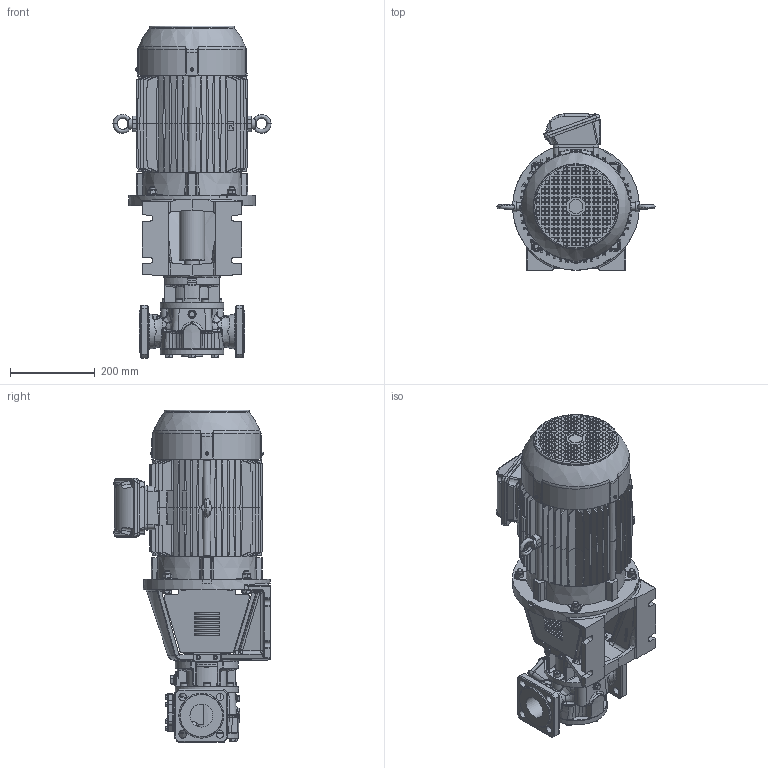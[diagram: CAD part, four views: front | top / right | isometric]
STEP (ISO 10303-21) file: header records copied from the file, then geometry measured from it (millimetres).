
FILE_DESCRIPTION(/* description */ (''),/* implementation_level */ '2;1');
FILE_NAME(/* name */ 'C:\V\JPP\Designs\GEAR PUMPS\PRODUCT ENGINEERING\EUROPE\TG BLOC\TG BLOC_15-50_G2_O_NRV-_132M-STEP.stp',/* time_stamp */ '2021-03-17T08:44:12+01:00',/* author */ ('A77THR'),/* organization */ (''),/* preprocessor_version */ 'ST-DEVELOPER v18.1',/* originating_system */ 'Autodesk Inventor 2020',/* authorisation */ '');
FILE_SCHEMA (('AUTOMOTIVE_DESIGN { 1 0 10303 214 3 1 1 }'));
Products named in the file (1): TG BLOC_15-50_G2_O_NRV-_132M
Bounding box: 374 x 370.15 x 785.8 mm (x, y, z)
Volume: 26218818.8 mm3; surface area: 1534069.7 mm2
Topology: 1 solids, 1 shells, 4847 faces, 12441 edges, 7922 vertices
Faces by surface type: plane 2869, bspline 830, cylinder 625, cone 347, torus 135, sphere 41
Full cylindrical faces by diameter (mm): 4 x1, 4.5 x4, 4.917 x4, 5 x4, 5.459 x8, 6 x11, 6.647 x1, 7 x8, 8.376 x5, 8.5 x2, 8.7 x8, 9.188 x4, 10 x12, 10.5 x1, 11.445 x2, 11.5 x4, 12 x9, 13 x4, 15.011 x3, 15.4 x10, 16 x10, 17.2 x4, 17.9 x3, 18 x11, 19 x3, 21.939 x1, 25.9 x1, 26 x1, 27.9 x1, 28 x1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
Entity records: 198819 total; most frequent: CARTESIAN_POINT 83025, ORIENTED_EDGE 24726, DIRECTION 20459, EDGE_CURVE 12363, VERTEX_POINT 7922, AXIS2_PLACEMENT_3D 6821, LINE 6817, VECTOR 6817
